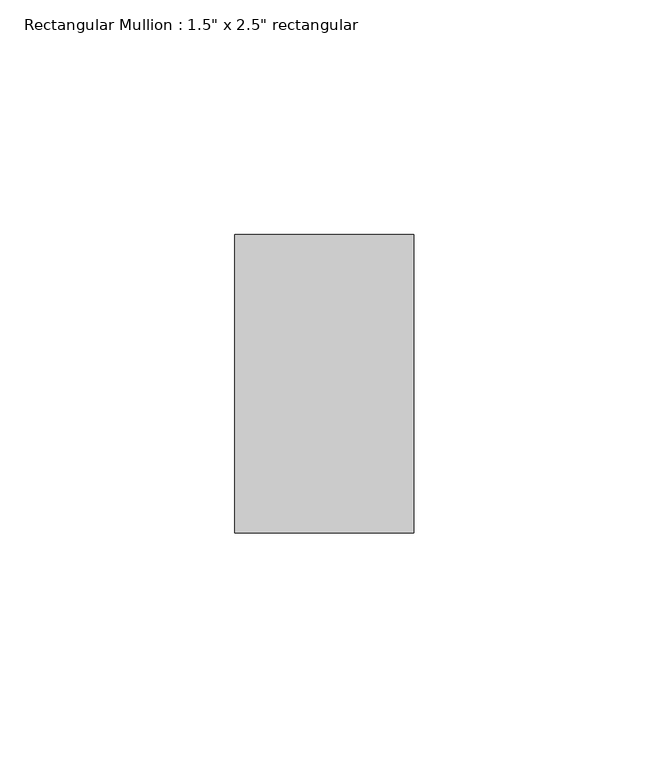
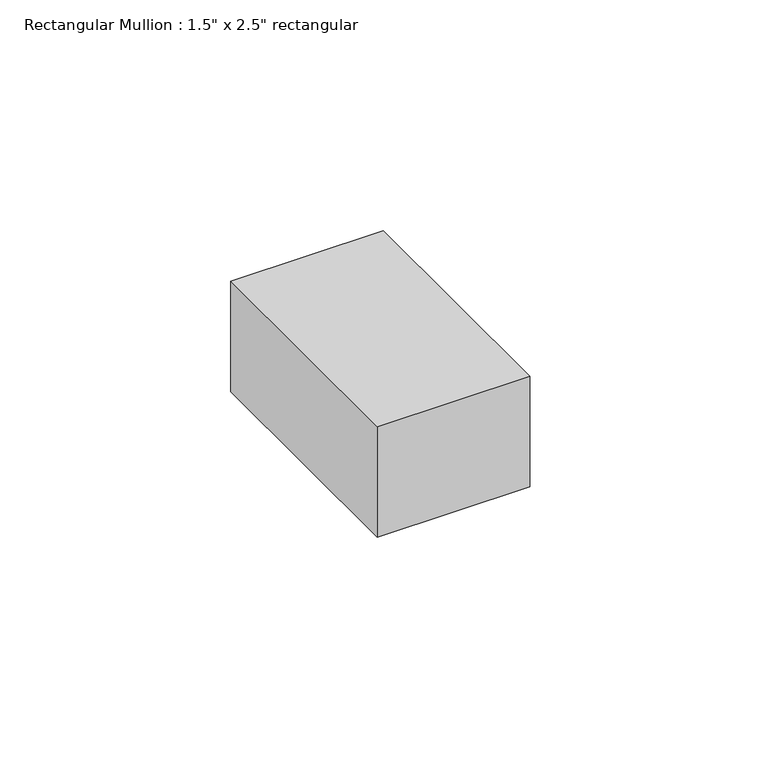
"""IFC4 building model written with IfcOpenShell, lengths in millimetres: member geometry."""

from ifc_helpers import new_model, si_unit, frame, origin, place, context, project, spatial, polyline, outline, extrude, source, transform, mapped, element, save


def member_3179f230(model_context):
    return source(origin(), model_context, "Body", "SweptSolid", [
        extrude(outline(polyline([(0.0, 31.75), (0.0, -31.75), (-38.1, -31.75), (-38.1, 31.75), (0.0, 31.75)])), frame((0.0, 0.0, -29.1510434), z_axis=(0.0, 0.0, 1.0), x_axis=(1.0, 0.0, 0.0)), (0.0, 0.0, 1.0), 29.1510434),
    ])


if __name__ == "__main__":
    model = new_model("IFC4")
    model_context = context("Model", 3, world=origin())
    ifc_project = project(units=[si_unit("LENGTHUNIT", "METRE", prefix="MILLI")], contexts=[model_context])
    site = spatial("IfcSite", under=ifc_project)
    building = spatial("IfcBuilding", under=site)
    placement = place(None, origin())
    member_shape = member_3179f230(model_context)
    element("IfcMember", 1, ObjectType="Rectangular Mullion : 1.5\" x 2.5\" rectangular", at=placement, inside=building, context=model_context, shape_type="MappedRepresentation", body=[
        mapped(member_shape, transform((0.0, 0.0, 0.0), x_axis=(1.0, 0.0, 0.0), y_axis=(0.0, 1.0, 0.0), z_axis=(0.0, 0.0, 1.0))),
    ])
    save(model, "model.ifc")
